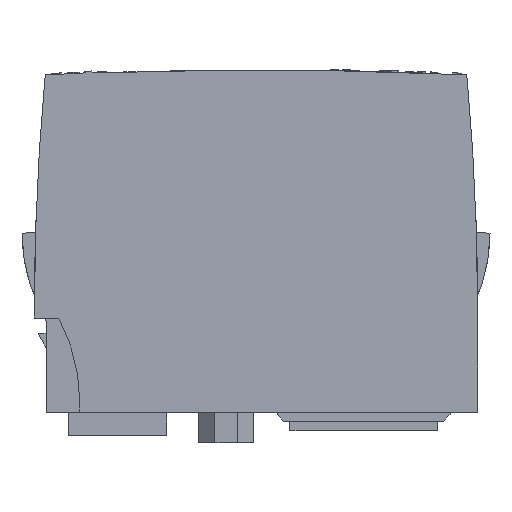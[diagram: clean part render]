
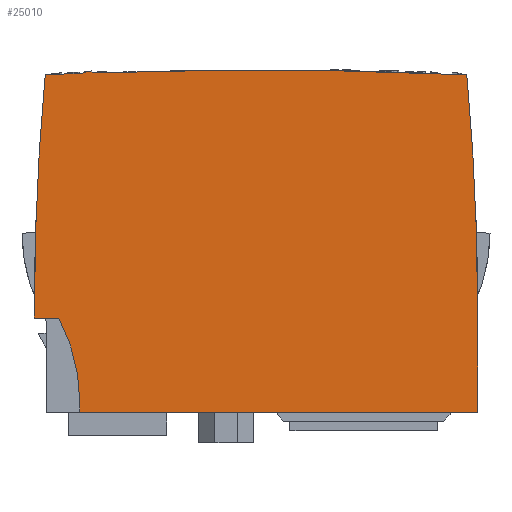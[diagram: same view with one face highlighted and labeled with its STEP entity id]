
A CAD part, left-side view. The second image highlights one B-rep face of the part: STEP entity #25010.
In plain terms, the highlighted planar face has unit normal (-1, 0, 0).
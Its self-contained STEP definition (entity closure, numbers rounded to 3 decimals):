
#20741=FACE_OUTER_BOUND('',#28040,.T.);
#23259=PLANE('',#68651);
#25010=ADVANCED_FACE('',(#20741),#23259,.T.);
#28040=EDGE_LOOP('',(#41290,#41291,#41292,#41293,#41294,#41295,#41296,#41297,
#41298,#41299,#41300));
#30970=LINE('',#79976,#35632);
#31047=LINE('',#80159,#35709);
#31055=LINE('',#80180,#35717);
#31064=LINE('',#80202,#35726);
#31067=LINE('',#80208,#35729);
#35632=VECTOR('',#70666,1.);
#35709=VECTOR('',#70801,1.);
#35717=VECTOR('',#70817,1.);
#35726=VECTOR('',#70838,1.);
#35729=VECTOR('',#70843,1.);
#41290=ORIENTED_EDGE('',*,*,#59038,.F.);
#41291=ORIENTED_EDGE('',*,*,#59070,.F.);
#41292=ORIENTED_EDGE('',*,*,#58768,.F.);
#41293=ORIENTED_EDGE('',*,*,#59067,.F.);
#41294=ORIENTED_EDGE('',*,*,#59061,.F.);
#41295=ORIENTED_EDGE('',*,*,#59059,.F.);
#41296=ORIENTED_EDGE('',*,*,#59053,.F.);
#41297=ORIENTED_EDGE('',*,*,#59050,.F.);
#41298=ORIENTED_EDGE('',*,*,#59031,.F.);
#41299=ORIENTED_EDGE('',*,*,#59028,.F.);
#41300=ORIENTED_EDGE('',*,*,#58937,.F.);
#54290=VERTEX_POINT('',#79565);
#54291=VERTEX_POINT('',#79566);
#54435=VERTEX_POINT('',#79975);
#54436=VERTEX_POINT('',#79977);
#54513=VERTEX_POINT('',#80160);
#54515=VERTEX_POINT('',#80166);
#54521=VERTEX_POINT('',#80179);
#54528=VERTEX_POINT('',#80199);
#54531=VERTEX_POINT('',#80209);
#54535=VERTEX_POINT('',#80220);
#54536=VERTEX_POINT('',#80224);
#58768=EDGE_CURVE('',#54290,#54291,#65454,.T.);
#58937=EDGE_CURVE('',#54435,#54436,#30970,.T.);
#59028=EDGE_CURVE('',#54436,#54513,#31047,.T.);
#59031=EDGE_CURVE('',#54513,#54515,#65486,.T.);
#59038=EDGE_CURVE('',#54521,#54435,#31055,.T.);
#59050=EDGE_CURVE('',#54515,#54528,#31064,.T.);
#59053=EDGE_CURVE('',#54528,#54531,#31067,.T.);
#59059=EDGE_CURVE('',#54531,#54535,#65492,.T.);
#59061=EDGE_CURVE('',#54535,#54536,#65493,.T.);
#59067=EDGE_CURVE('',#54536,#54290,#65496,.T.);
#59070=EDGE_CURVE('',#54291,#54521,#65498,.T.);
#65454=CIRCLE('',#68556,750.);
#65486=CIRCLE('',#68627,28.3);
#65492=CIRCLE('',#68639,391.5);
#65493=CIRCLE('',#68641,750.);
#65496=CIRCLE('',#68645,2.3);
#65498=CIRCLE('',#68648,391.5);
#68556=AXIS2_PLACEMENT_3D('',#79564,#70442,#70443);
#68627=AXIS2_PLACEMENT_3D('',#80165,#70807,#70808);
#68639=AXIS2_PLACEMENT_3D('',#80219,#70853,#70854);
#68641=AXIS2_PLACEMENT_3D('',#80223,#70858,#70859);
#68645=AXIS2_PLACEMENT_3D('',#80235,#70869,#70870);
#68648=AXIS2_PLACEMENT_3D('',#80241,#70876,#70877);
#68651=AXIS2_PLACEMENT_3D('',#80244,#70882,#70883);
#70442=DIRECTION('',(1.,0.,0.));
#70443=DIRECTION('',(0.,0.034,0.999));
#70666=DIRECTION('',(0.,1.,0.));
#70801=DIRECTION('',(0.,0.,1.));
#70807=DIRECTION('',(-1.,0.,0.));
#70808=DIRECTION('',(0.,-0.884,0.467));
#70817=DIRECTION('',(0.,0.,-1.));
#70838=DIRECTION('',(0.,1.,0.));
#70843=DIRECTION('',(0.,0.,1.));
#70853=DIRECTION('',(1.,0.,0.));
#70854=DIRECTION('',(0.,1.,0.));
#70858=DIRECTION('',(1.,0.,0.));
#70859=DIRECTION('',(0.,0.043,0.999));
#70869=DIRECTION('',(1.,0.,0.));
#70870=DIRECTION('',(0.,0.431,0.902));
#70876=DIRECTION('',(1.,0.,0.));
#70877=DIRECTION('',(0.,-0.996,0.09));
#70882=DIRECTION('',(-1.,0.,0.));
#70883=DIRECTION('',(0.,0.,-1.));
#79564=CARTESIAN_POINT('',(-11.724,41.82,-693.016));
#79565=CARTESIAN_POINT('',(-11.724,67.088,56.558));
#79566=CARTESIAN_POINT('',(-11.724,8.854,56.259));
#79975=CARTESIAN_POINT('',(-11.724,7.17,3.484));
#79976=CARTESIAN_POINT('',(-11.724,7.17,3.484));
#79977=CARTESIAN_POINT('',(-11.724,69.37,3.484));
#80159=CARTESIAN_POINT('',(-11.724,69.37,3.484));
#80160=CARTESIAN_POINT('',(-11.724,69.37,4.984));
#80165=CARTESIAN_POINT('',(-11.724,97.67,4.984));
#80166=CARTESIAN_POINT('',(-11.724,72.652,18.214));
#80179=CARTESIAN_POINT('',(-11.724,7.17,19.984));
#80180=CARTESIAN_POINT('',(-11.724,7.17,19.984));
#80199=CARTESIAN_POINT('',(-11.724,76.47,18.214));
#80202=CARTESIAN_POINT('',(-11.724,72.652,18.214));
#80208=CARTESIAN_POINT('',(-11.724,76.47,18.214));
#80209=CARTESIAN_POINT('',(-11.724,76.47,19.984));
#80219=CARTESIAN_POINT('',(-11.724,-315.03,19.984));
#80220=CARTESIAN_POINT('',(-11.724,74.786,56.259));
#80223=CARTESIAN_POINT('',(-11.724,41.82,-693.016));
#80224=CARTESIAN_POINT('',(-11.724,68.998,56.492));
#80235=CARTESIAN_POINT('',(-11.724,67.97,54.434));
#80241=CARTESIAN_POINT('',(-11.724,398.67,19.984));
#80244=CARTESIAN_POINT('',(-11.724,97.67,4.984));
